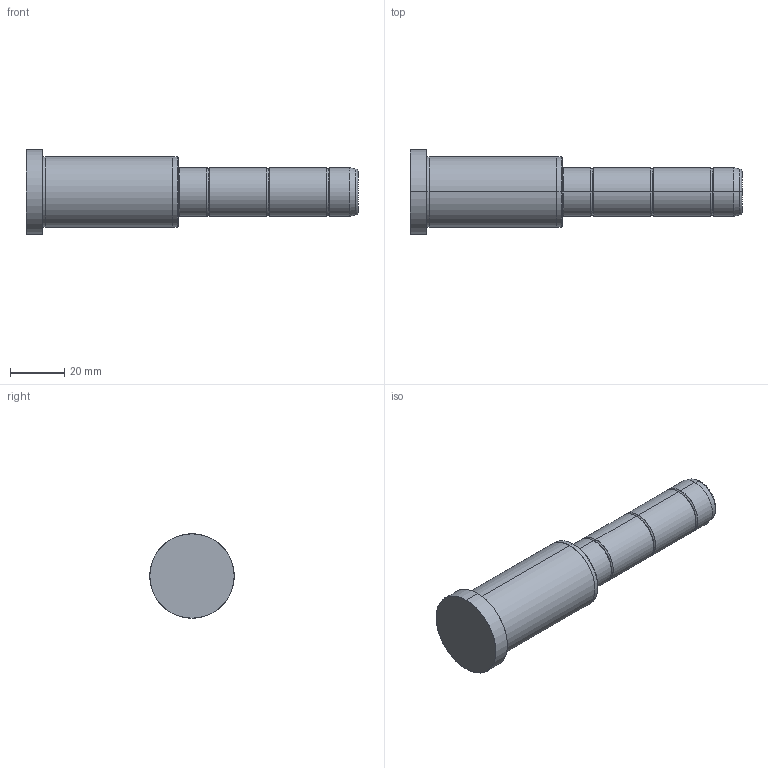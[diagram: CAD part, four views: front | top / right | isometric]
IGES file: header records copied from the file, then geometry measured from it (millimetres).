
Start section: SolidWorks IGES file using analytic representation for surfaces
Global section: file name: C:\Documents and Settings\kalite-mail\Desktop\IGS\D02\18\D02 - 18x56x66.IGS; native system: SolidWorks 2008; preprocessor: SolidWorks 2008; author: kalite-mail; date: 080616.153200; units: millimetre
Bounding box: 122 x 31 x 31 mm (x, y, z)
Surface area: 9908.7 mm2 (no closed solid volume)
Topology: 0 solids, 0 shells, 42 faces, 528 edges, 528 vertices
Faces by surface type: bspline 22, revolution 20
